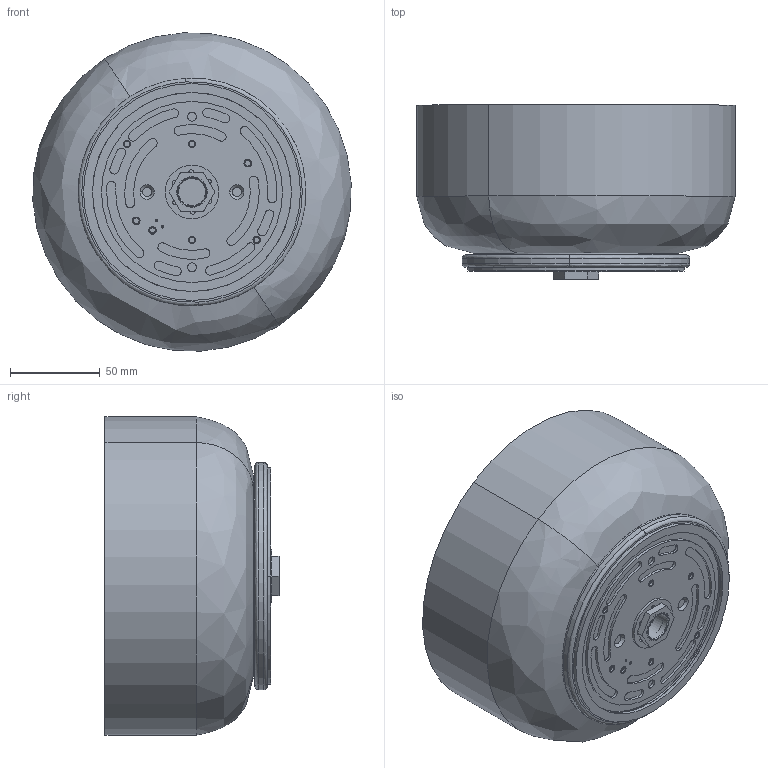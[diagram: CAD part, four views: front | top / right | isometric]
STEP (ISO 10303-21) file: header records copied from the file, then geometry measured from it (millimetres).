
FILE_DESCRIPTION (( 'STEP AP214' ), '1' );
FILE_NAME ('Totem Sconce, IP44, Share CAD.STEP', '2024-09-20T23:33:19', ( '' ), ( '' ), 'SwSTEP 2.0', 'SolidWorks 2019', '' );
FILE_SCHEMA (( 'AUTOMOTIVE_DESIGN' ));
Length unit declared in the file: inch
Products named in the file (34): lock washers internal teeth gb_GB_LOCK_WASHERS_TYPE1 18_2; O型圈100x1_1; 芵嫖欶湍謂_3; M18x1.5攝韓潔路; 畢鎢羲壽_2; 110掖啣郪蚾_3; cross recessed countersunk head screws gb2_GB_CROSS_SCREWS_TYPE10 M3X8-6.35-H1-N_3; 全牙管M18x1.5x15_3; 胶垫圈_2; 127埴醱裔_2; 蟀諉堵_3; SCONCE 族腑1_2; 埴遠LED 啣_3; 嫖埭郪蚾1_3; 10W DS10W-0000 120-277V驱动_3; LED假蚾價釱_3; 114埴醱啣郪爾_3; 114埴醱啣_3; 121硅胶圈_1; M18x1.5鞠褒蹟譫; ISP-020-嘐盄揤え_3; cross recessed countersunk head screws gb2_GB_CROSS_SCREWS_TYPE10 M4X6-3.3-H1-N_1; cross recessed countersunk head screws gb2_GB_CROSS_SCREWS_TYPE10 M4X8-5.3-H1-N_3; 101埴匐寑啣_1; 101埴匐寑啣; Totem-Shade-E1_1; 埴遠LED 啣湍羲壽_2; 127埴柲階攫彶諳_1; 毀嫖戚-樓綠_1; Totem Sconce, IP44, Share CAD; 毀嫖戚_3; hexagon socket countersunk head screws gb_GB_FASTENER_SCREWS_HSCHS M4X10-N_3; cross recessed small pan head screws gb_GB_CROSS_SCREWS_TYPE3 M3X4-4-N_3; 60硅胶圈_1
Assembly tree (41 placements, depth 5):
  Totem Sconce, IP44, Share CAD
    SCONCE 族腑1_2
      110掖啣郪蚾_3
        蟀諉堵_3  x2
        10W DS10W-0000 120-277V驱动_3
        cross recessed countersunk head screws gb2_GB_CROSS_SCREWS_TYPE10 M4X8-5.3-H1-N_3  x2
        127埴柲階攫彶諳_1
        121硅胶圈_1
        101埴匐寑啣
      嫖埭郪蚾1_3
        芵嫖欶湍謂_3
        毀嫖戚_3
        LED假蚾價釱_3
        cross recessed small pan head screws gb_GB_CROSS_SCREWS_TYPE3 M3X4-4-N_3  x3
        hexagon socket countersunk head screws gb_GB_FASTENER_SCREWS_HSCHS M4X10-N_3  x2
        114埴醱啣郪爾_3
          114埴醱啣_3
          cross recessed countersunk head screws gb2_GB_CROSS_SCREWS_TYPE10 M4X6-3.3-H1-N_1
        埴遠LED 啣湍羲壽_2
          埴遠LED 啣_3
          畢鎢羲壽_2
        ISP-020-嘐盄揤え_3
        cross recessed countersunk head screws gb2_GB_CROSS_SCREWS_TYPE10 M3X8-6.35-H1-N_3  x2
        毀嫖戚-樓綠_1
        O型圈100x1_1
      60硅胶圈_1
    胶垫圈_2  x2
    101埴匐寑啣_1
    127埴醱裔_2
    全牙管M18x1.5x15_3
    lock washers internal teeth gb_GB_LOCK_WASHERS_TYPE1 18_2
    Totem-Shade-E1_1
    121硅胶圈_1
    M18x1.5鞠褒蹟譫
    M18x1.5攝韓潔路
Bounding box: 177.53 x 97.05 x 177.53 mm (x, y, z)
Volume: 484686.9 mm3; surface area: 412007.1 mm2
Topology: 35 solids, 51 shells, 1267 faces, 3178 edges, 2066 vertices
Faces by surface type: plane 592, cylinder 491, cone 92, bspline 92
Entity records: 39730 total; most frequent: CARTESIAN_POINT 10539, DIRECTION 5986, ORIENTED_EDGE 5536, EDGE_CURVE 2796, AXIS2_PLACEMENT_3D 2182, VERTEX_POINT 1829, LINE 1622, VECTOR 1622
